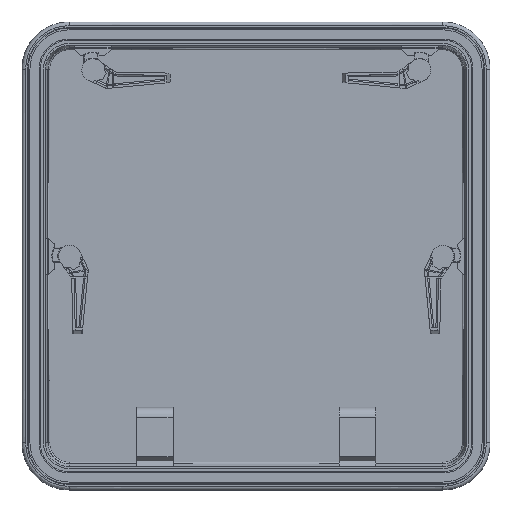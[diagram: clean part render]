
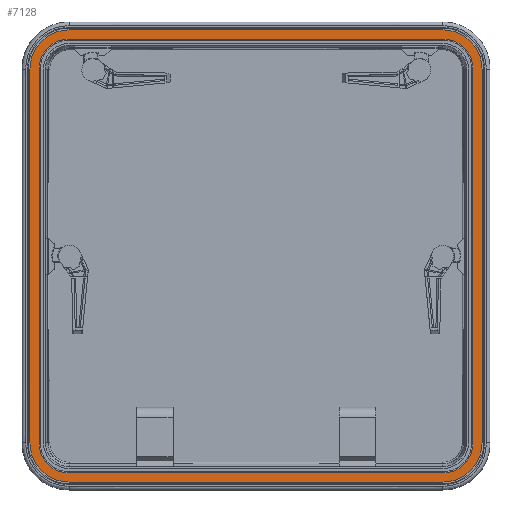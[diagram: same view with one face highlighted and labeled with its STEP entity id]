
A CAD part, top view. The second image highlights one B-rep face of the part: STEP entity #7128.
In plain terms, the highlighted planar face has unit normal (0, 0, 1) as drawn and (0, 0, -1) by its records, which use the part's own axes.
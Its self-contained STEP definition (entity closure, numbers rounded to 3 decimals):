
#1537=DIRECTION('',(1.,0.,0.));
#1538=VECTOR('',#1537,615.);
#1539=CARTESIAN_POINT('',(77.5,28.,-1.5));
#1540=LINE('',#1539,#1538);
#1545=CARTESIAN_POINT('',(77.5,77.5,-1.5));
#1546=DIRECTION('',(0.,0.,1.));
#1547=DIRECTION('',(-1.,0.,0.));
#1548=AXIS2_PLACEMENT_3D('',#1545,#1546,#1547);
#1558=DIRECTION('',(0.,-1.,0.));
#1559=VECTOR('',#1558,615.);
#1560=CARTESIAN_POINT('',(28.,692.5,-1.5));
#1561=LINE('',#1560,#1559);
#1566=CARTESIAN_POINT('',(77.5,692.5,-1.5));
#1567=DIRECTION('',(0.,0.,1.));
#1568=DIRECTION('',(0.,1.,0.));
#1569=AXIS2_PLACEMENT_3D('',#1566,#1567,#1568);
#1575=DIRECTION('',(-1.,0.,0.));
#1576=VECTOR('',#1575,615.);
#1577=CARTESIAN_POINT('',(692.5,742.,-1.5));
#1578=LINE('',#1577,#1576);
#1583=CARTESIAN_POINT('',(692.5,692.5,-1.5));
#1584=DIRECTION('',(0.,0.,1.));
#1585=DIRECTION('',(1.,0.,0.));
#1586=AXIS2_PLACEMENT_3D('',#1583,#1584,#1585);
#1592=DIRECTION('',(0.,1.,0.));
#1593=VECTOR('',#1592,615.);
#1594=CARTESIAN_POINT('',(742.,77.5,-1.5));
#1595=LINE('',#1594,#1593);
#1600=CARTESIAN_POINT('',(692.5,77.5,-1.5));
#1601=DIRECTION('',(0.,0.,1.));
#1602=DIRECTION('',(0.,-1.,0.));
#1603=AXIS2_PLACEMENT_3D('',#1600,#1601,#1602);
#1605=DIRECTION('',(1.,0.,0.));
#1606=VECTOR('',#1605,615.);
#1607=CARTESIAN_POINT('',(77.5,13.,-1.5));
#1608=LINE('',#1607,#1606);
#1609=CARTESIAN_POINT('',(692.5,77.5,-1.5));
#1610=DIRECTION('',(0.,0.,1.));
#1611=DIRECTION('',(0.,-1.,0.));
#1612=AXIS2_PLACEMENT_3D('',#1609,#1610,#1611);
#1614=DIRECTION('',(0.,1.,0.));
#1615=VECTOR('',#1614,615.);
#1616=CARTESIAN_POINT('',(757.,77.5,-1.5));
#1617=LINE('',#1616,#1615);
#1618=CARTESIAN_POINT('',(692.5,692.5,-1.5));
#1619=DIRECTION('',(0.,0.,1.));
#1620=DIRECTION('',(1.,0.,0.));
#1621=AXIS2_PLACEMENT_3D('',#1618,#1619,#1620);
#1623=DIRECTION('',(-1.,0.,0.));
#1624=VECTOR('',#1623,615.);
#1625=CARTESIAN_POINT('',(692.5,757.,-1.5));
#1626=LINE('',#1625,#1624);
#1627=CARTESIAN_POINT('',(77.5,692.5,-1.5));
#1628=DIRECTION('',(0.,0.,1.));
#1629=DIRECTION('',(0.,1.,0.));
#1630=AXIS2_PLACEMENT_3D('',#1627,#1628,#1629);
#1632=DIRECTION('',(0.,-1.,0.));
#1633=VECTOR('',#1632,615.);
#1634=CARTESIAN_POINT('',(13.,692.5,-1.5));
#1635=LINE('',#1634,#1633);
#1636=CARTESIAN_POINT('',(77.5,77.5,-1.5));
#1637=DIRECTION('',(0.,0.,1.));
#1638=DIRECTION('',(-1.,0.,0.));
#1639=AXIS2_PLACEMENT_3D('',#1636,#1637,#1638);
#2021=CARTESIAN_POINT('',(77.5,13.,-1.5));
#2023=VERTEX_POINT('',#2021);
#2024=CARTESIAN_POINT('',(77.5,28.,-1.5));
#2026=VERTEX_POINT('',#2024);
#2062=CARTESIAN_POINT('',(692.5,13.,-1.5));
#2064=VERTEX_POINT('',#2062);
#2065=CARTESIAN_POINT('',(692.5,28.,-1.5));
#2067=VERTEX_POINT('',#2065);
#2103=CARTESIAN_POINT('',(757.,77.5,-1.5));
#2105=VERTEX_POINT('',#2103);
#2106=CARTESIAN_POINT('',(742.,77.5,-1.5));
#2108=VERTEX_POINT('',#2106);
#2144=CARTESIAN_POINT('',(757.,692.5,-1.5));
#2146=VERTEX_POINT('',#2144);
#2147=CARTESIAN_POINT('',(742.,692.5,-1.5));
#2149=VERTEX_POINT('',#2147);
#2185=CARTESIAN_POINT('',(692.5,757.,-1.5));
#2187=VERTEX_POINT('',#2185);
#2188=CARTESIAN_POINT('',(692.5,742.,-1.5));
#2190=VERTEX_POINT('',#2188);
#2226=CARTESIAN_POINT('',(77.5,757.,-1.5));
#2228=VERTEX_POINT('',#2226);
#2229=CARTESIAN_POINT('',(77.5,742.,-1.5));
#2231=VERTEX_POINT('',#2229);
#2267=CARTESIAN_POINT('',(13.,692.5,-1.5));
#2269=VERTEX_POINT('',#2267);
#2270=CARTESIAN_POINT('',(28.,692.5,-1.5));
#2272=VERTEX_POINT('',#2270);
#2308=CARTESIAN_POINT('',(13.,77.5,-1.5));
#2310=VERTEX_POINT('',#2308);
#2311=CARTESIAN_POINT('',(28.,77.5,-1.5));
#2313=VERTEX_POINT('',#2311);
#7095=CARTESIAN_POINT('',(385.,20.5,-1.5));
#7096=DIRECTION('',(0.,0.,1.));
#7097=DIRECTION('',(0.,1.,0.));
#7098=AXIS2_PLACEMENT_3D('',#7095,#7096,#7097);
#7099=PLANE('',#7098);
#7101=ORIENTED_EDGE('',*,*,#7100,.T.);
#7103=ORIENTED_EDGE('',*,*,#7102,.T.);
#7105=ORIENTED_EDGE('',*,*,#7104,.T.);
#7107=ORIENTED_EDGE('',*,*,#7106,.T.);
#7109=ORIENTED_EDGE('',*,*,#7108,.T.);
#7111=ORIENTED_EDGE('',*,*,#7110,.T.);
#7113=ORIENTED_EDGE('',*,*,#7112,.T.);
#7115=ORIENTED_EDGE('',*,*,#7114,.T.);
#7116=EDGE_LOOP('',(#7101,#7103,#7105,#7107,#7109,#7111,#7113,#7115));
#7117=FACE_OUTER_BOUND('',#7116,.F.);
#7118=ORIENTED_EDGE('',*,*,#7005,.F.);
#7119=ORIENTED_EDGE('',*,*,#7019,.F.);
#7120=ORIENTED_EDGE('',*,*,#7033,.F.);
#7121=ORIENTED_EDGE('',*,*,#7047,.F.);
#7122=ORIENTED_EDGE('',*,*,#7061,.F.);
#7123=ORIENTED_EDGE('',*,*,#7075,.F.);
#7124=ORIENTED_EDGE('',*,*,#7088,.F.);
#7125=ORIENTED_EDGE('',*,*,#6990,.F.);
#7126=EDGE_LOOP('',(#7118,#7119,#7120,#7121,#7122,#7123,#7124,#7125));
#7127=FACE_BOUND('',#7126,.F.);
#7128=ADVANCED_FACE('',(#7117,#7127),#7099,.F.);
#1549=CIRCLE('',#1548,49.5);
#1570=CIRCLE('',#1569,49.5);
#1587=CIRCLE('',#1586,49.5);
#1604=CIRCLE('',#1603,49.5);
#1613=CIRCLE('',#1612,64.5);
#1622=CIRCLE('',#1621,64.5);
#1631=CIRCLE('',#1630,64.5);
#1640=CIRCLE('',#1639,64.5);
#6990=EDGE_CURVE('',#2026,#2067,#1540,.T.);
#7005=EDGE_CURVE('',#2313,#2026,#1549,.T.);
#7019=EDGE_CURVE('',#2272,#2313,#1561,.T.);
#7033=EDGE_CURVE('',#2231,#2272,#1570,.T.);
#7047=EDGE_CURVE('',#2190,#2231,#1578,.T.);
#7061=EDGE_CURVE('',#2149,#2190,#1587,.T.);
#7075=EDGE_CURVE('',#2108,#2149,#1595,.T.);
#7088=EDGE_CURVE('',#2067,#2108,#1604,.T.);
#7100=EDGE_CURVE('',#2023,#2064,#1608,.T.);
#7102=EDGE_CURVE('',#2064,#2105,#1613,.T.);
#7104=EDGE_CURVE('',#2105,#2146,#1617,.T.);
#7106=EDGE_CURVE('',#2146,#2187,#1622,.T.);
#7108=EDGE_CURVE('',#2187,#2228,#1626,.T.);
#7110=EDGE_CURVE('',#2228,#2269,#1631,.T.);
#7112=EDGE_CURVE('',#2269,#2310,#1635,.T.);
#7114=EDGE_CURVE('',#2310,#2023,#1640,.T.);
